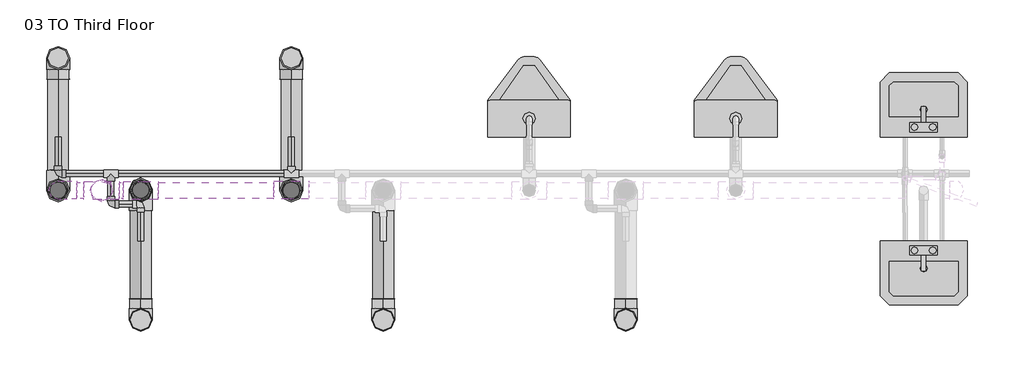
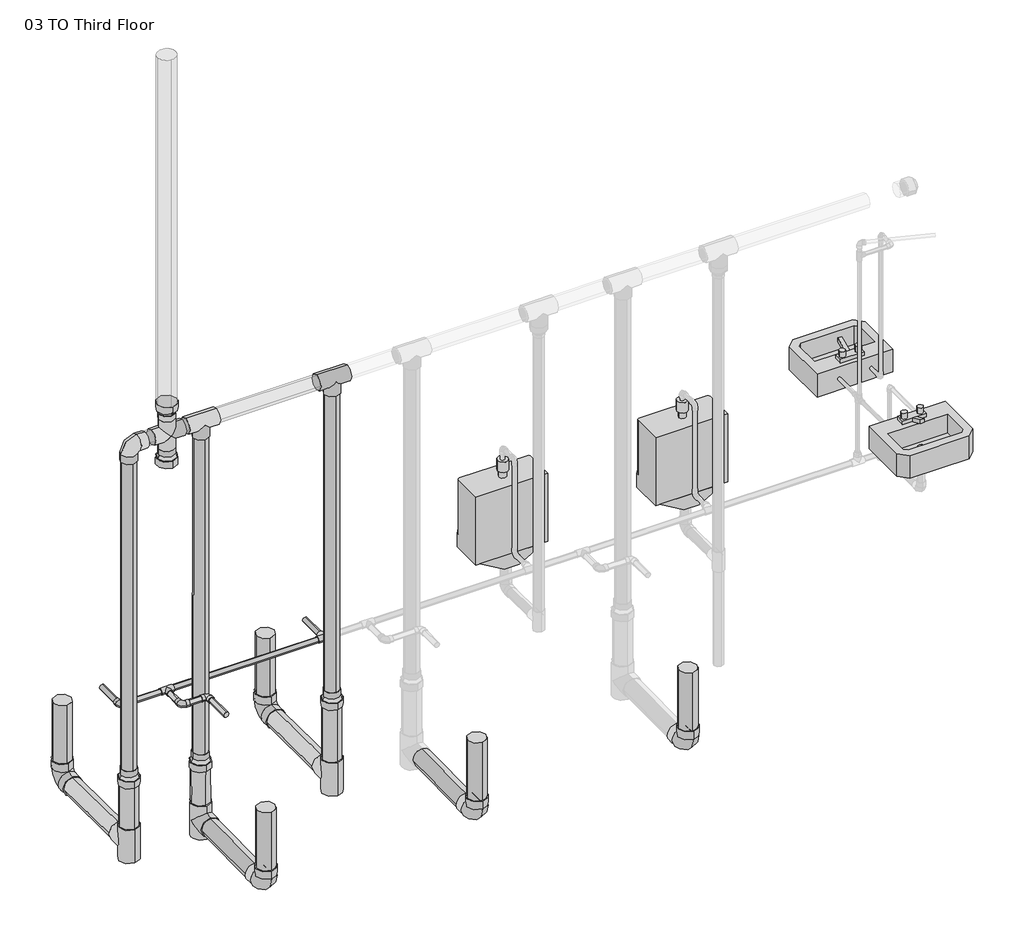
# One storey, part 1 of 3: 26 pipe segments, 22 pipe fittings, 4 flow terminals.
"""IFC4 building model written with IfcOpenShell, lengths in millimetres."""

from ifc_helpers import new_model, si_unit, point, frame, frame_2d, origin, place, context, project, spatial, circle_curve, trimmed, segment, composite_curve, outline, extrude, transform, mapped, element, save
from components import lavatory_wall_mounted_ac7d0257, urinal_wall_hung_30bb5849, cross_pvc_sch_40_standard_99b2fb3f, elbow_pvc_sch_40_standard_c47e97bb, elbow_pvc_sch_40_standard_3ccf74f3, elbow_pvc_sch_40_standard_517a5a8d, reducer_pvc_sch_40_dwv_standard_bc2808fd, tee_pvc_sch_40_standard_9cddf13a, tee_pvc_sch_40_standard_9261842d, tee_pvc_sch_40_standard_72b35c3b

model = new_model("IFC4")

# Units and contexts
model_context = context("Model", 3, world=origin())
ifc_project = project(units=[si_unit("LENGTHUNIT", "METRE", prefix="MILLI")], contexts=[model_context])

# Site, building, storey
site = spatial("IfcSite", under=ifc_project)
building = spatial("IfcBuilding", under=site)
storey = spatial("IfcBuildingStorey", under=building, Name="03 TO Third Floor", Elevation=9144.0)

# Flow terminals
placement = place(None, origin())
lavatory_wall_mounted_shape = lavatory_wall_mounted_ac7d0257(model_context)
element("IfcFlowTerminal", 1, ObjectType="Lavatory - Wall Mounted : D2010310_Lavatory_19\"x14\"Public", at=placement, inside=storey, context=model_context, shape_type="MappedRepresentation", body=[
    mapped(lavatory_wall_mounted_shape, transform((-12630.4062469, -4144.3703325, 10007.6), x_axis=(-1.0, 0.0, 0.0), y_axis=(0.0, 0.0, 1.0), z_axis=(0.0, 1.0, 0.0))),
])
element("IfcFlowTerminal", 2, ObjectType="Lavatory - Wall Mounted : D2010310_Lavatory_19\"x14\"Public", at=placement, inside=storey, context=model_context, shape_type="MappedRepresentation", body=[
    mapped(lavatory_wall_mounted_shape, transform((-12630.4062469, -4719.0453325, 10007.6), x_axis=(1.0, 0.0, 0.0), y_axis=(0.0, 0.0, 1.0), z_axis=(0.0, -1.0, 0.0))),
])
urinal_wall_hung_shape = urinal_wall_hung_30bb5849(model_context)
element("IfcFlowTerminal", 3, ObjectType="Urinal - Wall Hung : D2010210_Urinal_WallHung_3/4\" FlushValve", at=placement, inside=storey, context=model_context, shape_type="MappedRepresentation", body=[
    mapped(urinal_wall_hung_shape, transform((-14812.7542617, -4144.3703325, 9575.8), x_axis=(-1.0, 0.0, 0.0), y_axis=(0.0, 0.0, 1.0), z_axis=(0.0, 1.0, 0.0))),
])
element("IfcFlowTerminal", 4, ObjectType="Urinal - Wall Hung : D2010210_Urinal_WallHung_3/4\" FlushValve", at=placement, inside=storey, context=model_context, shape_type="MappedRepresentation", body=[
    mapped(urinal_wall_hung_shape, transform((-13669.7542617, -4144.3703325, 9575.8), x_axis=(-1.0, 0.0, 0.0), y_axis=(0.0, 0.0, 1.0), z_axis=(0.0, 1.0, 0.0))),
])

# Pipe fittings
cross_pvc_sch_40_standard_shape = cross_pvc_sch_40_standard_99b2fb3f(model_context)
element("IfcPipeFitting", 5, ObjectType="Cross - PVC - Sch 40 : Standard", at=placement, inside=storey, context=model_context, shape_type="MappedRepresentation", body=[
    mapped(cross_pvc_sch_40_standard_shape, transform((-17177.9687436, -4439.7857603, 11307.7752), x_axis=(0.0, 0.0, 1.0), y_axis=(1.0, 0.0, 0.0), z_axis=(0.0, 1.0, 0.0))),
])
elbow_pvc_sch_40_standard_shape = elbow_pvc_sch_40_standard_c47e97bb(model_context)
element("IfcPipeFitting", 6, ObjectType="Elbow - PVC - Sch 40 : Standard", at=placement, inside=storey, context=model_context, shape_type="MappedRepresentation", body=[
    mapped(elbow_pvc_sch_40_standard_shape, transform((-17418.6686686, -3706.2203325, 8636.0), x_axis=(0.0, 0.0, -1.0), y_axis=(0.0, -1.0, 0.0), z_axis=(-1.0, 0.0, 0.0))),
])
element("IfcPipeFitting", 7, ObjectType="Elbow - PVC - Sch 40 : Standard", at=placement, inside=storey, context=model_context, shape_type="MappedRepresentation", body=[
    mapped(elbow_pvc_sch_40_standard_shape, transform((-16128.0974824, -3706.2203325, 8636.0), x_axis=(0.0, 0.0, -1.0), y_axis=(0.0, -1.0, 0.0), z_axis=(-1.0, 0.0, 0.0))),
])
element("IfcPipeFitting", 8, ObjectType="Elbow - PVC - Sch 40 : Standard", at=placement, inside=storey, context=model_context, shape_type="MappedRepresentation", body=[
    mapped(elbow_pvc_sch_40_standard_shape, transform((-16961.4686686, -5157.1953325, 8636.0), x_axis=(0.0, 0.0, -1.0), y_axis=(0.0, 1.0, 0.0), z_axis=(1.0, 0.0, 0.0))),
])
element("IfcPipeFitting", 9, ObjectType="Elbow - PVC - Sch 40 : Standard", at=placement, inside=storey, context=model_context, shape_type="MappedRepresentation", body=[
    mapped(elbow_pvc_sch_40_standard_shape, transform((-15620.0974824, -5157.1953325, 8636.0), x_axis=(0.0, 0.0, -1.0), y_axis=(0.0, 1.0, 0.0), z_axis=(1.0, 0.0, 0.0))),
])
element("IfcPipeFitting", 10, ObjectType="Elbow - PVC - Sch 40 : Standard", at=placement, inside=storey, context=model_context, shape_type="MappedRepresentation", body=[
    mapped(elbow_pvc_sch_40_standard_shape, transform((-14278.7262962, -5157.1953325, 8636.0), x_axis=(0.0, 0.0, -1.0), y_axis=(0.0, 1.0, 0.0), z_axis=(1.0, 0.0, 0.0))),
])
elbow_pvc_sch_40_standard_2_shape = elbow_pvc_sch_40_standard_3ccf74f3(model_context)
element("IfcPipeFitting", 11, ObjectType="Elbow - PVC - Sch 40 : Standard", at=placement, inside=storey, context=model_context, shape_type="MappedRepresentation", body=[
    mapped(elbow_pvc_sch_40_standard_2_shape, transform((-17418.6686686, -4439.7857603, 11307.7752), x_axis=(-1.0, 0.0, 0.0), y_axis=(0.0, 0.0, -1.0), z_axis=(0.0, -1.0, 0.0))),
])
elbow_pvc_sch_40_standard_3_shape = elbow_pvc_sch_40_standard_517a5a8d(model_context)
element("IfcPipeFitting", 12, ObjectType="Elbow - PVC - Sch 40 : Standard", at=placement, inside=storey, context=model_context, shape_type="MappedRepresentation", body=[
    mapped(elbow_pvc_sch_40_standard_3_shape, transform((-17418.6686686, -4347.5703325, 9499.6), x_axis=(0.0, -1.0, 0.0), y_axis=(1.0, 0.0, 0.0), z_axis=(0.0, 0.0, 1.0))),
])
element("IfcPipeFitting", 13, ObjectType="Elbow - PVC - Sch 40 : Standard", at=placement, inside=storey, context=model_context, shape_type="MappedRepresentation", body=[
    mapped(elbow_pvc_sch_40_standard_3_shape, transform((-16961.4686686, -4515.8453325, 9499.6), x_axis=(0.0, 1.0, 0.0), y_axis=(-1.0, 0.0, 0.0), z_axis=(0.0, 0.0, 1.0))),
])
element("IfcPipeFitting", 14, ObjectType="Elbow - PVC - Sch 40 : Standard", at=placement, inside=storey, context=model_context, shape_type="MappedRepresentation", body=[
    mapped(elbow_pvc_sch_40_standard_3_shape, transform((-17126.5686686, -4515.8453325, 9499.6), x_axis=(0.0, -1.0, 0.0), y_axis=(1.0, 0.0, 0.0), z_axis=(0.0, 0.0, 1.0))),
])
reducer_pvc_sch_40_dwv_standard_shape = reducer_pvc_sch_40_dwv_standard_bc2808fd(model_context)
element("IfcPipeFitting", 15, ObjectType="Reducer - PVC - Sch 40 - DWV : Standard", at=placement, inside=storey, context=model_context, shape_type="MappedRepresentation", body=[
    mapped(reducer_pvc_sch_40_dwv_standard_shape, transform((-16128.0974824, -4439.7857603, 9216.7415065), x_axis=(0.0, 0.0, -1.0), y_axis=(1.0, 0.0, 0.0), z_axis=(0.0, -1.0, 0.0))),
])
element("IfcPipeFitting", 16, ObjectType="Reducer - PVC - Sch 40 - DWV : Standard", at=placement, inside=storey, context=model_context, shape_type="MappedRepresentation", body=[
    mapped(reducer_pvc_sch_40_dwv_standard_shape, transform((-17418.6686686, -4439.7857603, 9140.5415065), x_axis=(0.0, 0.0, -1.0), y_axis=(1.0, 0.0, 0.0), z_axis=(0.0, -1.0, 0.0))),
])
element("IfcPipeFitting", 17, ObjectType="Reducer - PVC - Sch 40 - DWV : Standard", at=placement, inside=storey, context=model_context, shape_type="MappedRepresentation", body=[
    mapped(reducer_pvc_sch_40_dwv_standard_shape, transform((-16961.4686686, -4436.2966246, 9089.5550443), x_axis=(0.0, 0.0015729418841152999, -0.9999987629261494), y_axis=(-1.0, 4.344944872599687e-12, 0.0), z_axis=(4.34495024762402e-12, 0.9999987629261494, 0.0015729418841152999))),
])
element("IfcPipeFitting", 18, ObjectType="Reducer - PVC - Sch 40 - DWV : Standard", at=placement, inside=storey, context=model_context, shape_type="MappedRepresentation", body=[
    mapped(reducer_pvc_sch_40_dwv_standard_shape, transform((-17177.9687436, -4439.7857603, 11209.9812312), x_axis=(0.0, 0.0, -1.0), y_axis=(-1.0, 0.0, 0.0), z_axis=(0.0, 1.0, 0.0))),
])
element("IfcPipeFitting", 19, ObjectType="Reducer - PVC - Sch 40 - DWV : Standard", at=placement, inside=storey, context=model_context, shape_type="MappedRepresentation", body=[
    mapped(reducer_pvc_sch_40_dwv_standard_shape, transform((-17177.9687436, -4439.7857603, 11405.5691687), x_axis=(0.0, 0.0, 1.0), y_axis=(1.0, 0.0, 0.0), z_axis=(0.0, 1.0, 0.0))),
])
tee_pvc_sch_40_standard_shape = tee_pvc_sch_40_standard_9cddf13a(model_context)
element("IfcPipeFitting", 20, ObjectType="Tee - PVC - Sch 40 : Standard", at=placement, inside=storey, context=model_context, shape_type="MappedRepresentation", body=[
    mapped(tee_pvc_sch_40_standard_shape, transform((-17418.6686686, -4439.7857603, 8643.6413065), x_axis=(0.0, 0.0, 1.0), y_axis=(0.0, -1.0, 0.0), z_axis=(1.0, 0.0, 0.0))),
])
element("IfcPipeFitting", 21, ObjectType="Tee - PVC - Sch 40 : Standard", at=placement, inside=storey, context=model_context, shape_type="MappedRepresentation", body=[
    mapped(tee_pvc_sch_40_standard_shape, transform((-16128.0974824, -4439.7857603, 8643.6413065), x_axis=(0.0, 0.0, 1.0), y_axis=(0.0, -1.0, 0.0), z_axis=(1.0, 0.0, 0.0))),
])
element("IfcPipeFitting", 22, ObjectType="Tee - PVC - Sch 40 : Standard", at=placement, inside=storey, context=model_context, shape_type="MappedRepresentation", body=[
    mapped(tee_pvc_sch_40_standard_shape, transform((-16961.4686686, -4439.7857603, 8643.4730164), x_axis=(0.0, 0.0, 1.0), y_axis=(0.0, 1.0, 0.0), z_axis=(-1.0, 0.0, 0.0))),
])
tee_pvc_sch_40_standard_2_shape = tee_pvc_sch_40_standard_9261842d(model_context)
element("IfcPipeFitting", 23, ObjectType="Tee - PVC - Sch 40 : Standard", at=placement, inside=storey, context=model_context, shape_type="MappedRepresentation", body=[
    mapped(tee_pvc_sch_40_standard_2_shape, transform((-16128.0974824, -4439.7857603, 11307.7752), x_axis=(1.0, 0.0, 0.0), y_axis=(0.0, 0.0, 1.0), z_axis=(0.0, -1.0, 0.0))),
])
element("IfcPipeFitting", 24, ObjectType="Tee - PVC - Sch 40 : Standard", at=placement, inside=storey, context=model_context, shape_type="MappedRepresentation", body=[
    mapped(tee_pvc_sch_40_standard_2_shape, transform((-16961.4686686, -4439.7857603, 11307.7752), x_axis=(-1.0, 0.0, 0.0), y_axis=(0.0, -0.0015729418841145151, 0.9999987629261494), z_axis=(0.0, 0.9999987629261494, 0.0015729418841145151))),
])
tee_pvc_sch_40_standard_3_shape = tee_pvc_sch_40_standard_72b35c3b(model_context)
element("IfcPipeFitting", 25, ObjectType="Tee - PVC - Sch 40 : Standard", at=placement, inside=storey, context=model_context, shape_type="MappedRepresentation", body=[
    mapped(tee_pvc_sch_40_standard_3_shape, transform((-17126.5686686, -4347.5703325, 9499.6), x_axis=(-1.0, 0.0, 0.0), y_axis=(0.0, 1.0, 0.0), z_axis=(0.0, 0.0, -1.0))),
])
element("IfcPipeFitting", 26, ObjectType="Tee - PVC - Sch 40 : Standard", at=placement, inside=storey, context=model_context, shape_type="MappedRepresentation", body=[
    mapped(tee_pvc_sch_40_standard_3_shape, transform((-16128.0974824, -4347.5703325, 9499.6), x_axis=(-1.0, 0.0, 0.0), y_axis=(0.0, -1.0, 0.0), z_axis=(0.0, 0.0, 1.0))),
])

# Pipe segments
element("IfcPipeSegment", 27, ObjectType="Standard", at=placement, inside=storey, context=model_context, shape_type="SweptSolid", body=[
    extrude(outline(composite_curve([segment(trimmed(circle_curve(frame_2d((-17418.6686686, -3706.2203325)), 57.15), [point((-17361.5186686, -3706.2203325))], [point((-17418.6686686, -3763.3703325))], False, "CARTESIAN"), True, "CONTINUOUS"), segment(trimmed(circle_curve(frame_2d((-17418.6686686, -3706.2203325)), 57.15), [point((-17418.6686686, -3763.3703325))], [point((-17475.8186686, -3706.2203325))], False, "CARTESIAN"), True, "CONTINUOUS"), segment(trimmed(circle_curve(frame_2d((-17418.6686686, -3706.2203325)), 57.15), [point((-17475.8186686, -3706.2203325))], [point((-17418.6686686, -3649.0703325))], False, "CARTESIAN"), True, "CONTINUOUS"), segment(trimmed(circle_curve(frame_2d((-17418.6686686, -3706.2203325)), 57.15), [point((-17418.6686686, -3649.0703325))], [point((-17361.5186686, -3706.2203325))], False, "CARTESIAN"), True, "CONTINUOUS")], self_intersect=False)), frame((0.0, 0.0, 8753.3671646), z_axis=(0.0, 0.0, 1.0), x_axis=(1.0, 0.0, 0.0)), (0.0, 0.0, 1.0), 390.6328354),
])
element("IfcPipeSegment", 28, ObjectType="Standard", at=placement, inside=storey, context=model_context, shape_type="SweptSolid", body=[
    extrude(outline(composite_curve([segment(trimmed(circle_curve(frame_2d((0.0, -57.15)), 57.15), [point((57.15, -57.15))], [point((0.0, -114.3000001))], False, "CARTESIAN"), True, "CONTINUOUS"), segment(trimmed(circle_curve(frame_2d((0.0, -57.15)), 57.15), [point((0.0, -114.3000001))], [point((-57.15, -57.15))], False, "CARTESIAN"), True, "CONTINUOUS"), segment(trimmed(circle_curve(frame_2d((0.0, -57.15)), 57.15), [point((-57.15, -57.15))], [point((0.0, 0.0))], False, "CARTESIAN"), True, "CONTINUOUS"), segment(trimmed(circle_curve(frame_2d((0.0, -57.15)), 57.15), [point((0.0, 0.0))], [point((57.15, -57.15))], False, "CARTESIAN"), True, "CONTINUOUS")], self_intersect=False)), frame((-17418.6686686, -3822.9858499, 8694.369408), z_axis=(0.0, -0.9999457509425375, 0.010416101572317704), x_axis=(1.0, 0.0, 0.0)), (0.0, 0.0, 1.0), 505.1130605),
])
element("IfcPipeSegment", 29, ObjectType="Standard", at=placement, inside=storey, context=model_context, shape_type="SweptSolid", body=[
    extrude(outline(composite_curve([segment(trimmed(circle_curve(frame_2d((-17418.6686686, -4439.7857603)), 57.15), [point((-17475.8186686, -4439.7857603))], [point((-17418.6686686, -4382.6357603))], False, "CARTESIAN"), True, "CONTINUOUS"), segment(trimmed(circle_curve(frame_2d((-17418.6686686, -4439.7857603)), 57.15), [point((-17418.6686686, -4382.6357603))], [point((-17361.5186686, -4439.7857603))], False, "CARTESIAN"), True, "CONTINUOUS"), segment(trimmed(circle_curve(frame_2d((-17418.6686686, -4439.7857603)), 57.15), [point((-17361.5186686, -4439.7857603))], [point((-17418.6686686, -4496.9357603))], False, "CARTESIAN"), True, "CONTINUOUS"), segment(trimmed(circle_curve(frame_2d((-17418.6686686, -4439.7857603)), 57.15), [point((-17418.6686686, -4496.9357603))], [point((-17475.8186686, -4439.7857603))], False, "CARTESIAN"), True, "CONTINUOUS")], self_intersect=False)), frame((0.0, 0.0, 8754.7663065), z_axis=(0.0, 0.0, 1.0), x_axis=(1.0, 0.0, 0.0)), (0.0, 0.0, 1.0), 279.4),
])
element("IfcPipeSegment", 30, ObjectType="Standard", at=placement, inside=storey, context=model_context, shape_type="SweptSolid", body=[
    extrude(outline(composite_curve([segment(trimmed(circle_curve(frame_2d((-16128.0974824, -3706.2203325)), 57.15), [point((-16070.9474824, -3706.2203325))], [point((-16128.0974824, -3763.3703325))], False, "CARTESIAN"), True, "CONTINUOUS"), segment(trimmed(circle_curve(frame_2d((-16128.0974824, -3706.2203325)), 57.15), [point((-16128.0974824, -3763.3703325))], [point((-16185.2474824, -3706.2203325))], False, "CARTESIAN"), True, "CONTINUOUS"), segment(trimmed(circle_curve(frame_2d((-16128.0974824, -3706.2203325)), 57.15), [point((-16185.2474824, -3706.2203325))], [point((-16128.0974824, -3649.0703325))], False, "CARTESIAN"), True, "CONTINUOUS"), segment(trimmed(circle_curve(frame_2d((-16128.0974824, -3706.2203325)), 57.15), [point((-16128.0974824, -3649.0703325))], [point((-16070.9474824, -3706.2203325))], False, "CARTESIAN"), True, "CONTINUOUS")], self_intersect=False)), frame((0.0, 0.0, 8753.3671646), z_axis=(0.0, 0.0, 1.0), x_axis=(1.0, 0.0, 0.0)), (0.0, 0.0, 1.0), 390.6328354),
])
element("IfcPipeSegment", 31, ObjectType="Standard", at=placement, inside=storey, context=model_context, shape_type="SweptSolid", body=[
    extrude(outline(composite_curve([segment(trimmed(circle_curve(frame_2d((0.0, -57.15)), 57.15), [point((57.15, -57.15))], [point((0.0, -114.3000001))], False, "CARTESIAN"), True, "CONTINUOUS"), segment(trimmed(circle_curve(frame_2d((0.0, -57.15)), 57.15), [point((0.0, -114.3000001))], [point((-57.15, -57.15))], False, "CARTESIAN"), True, "CONTINUOUS"), segment(trimmed(circle_curve(frame_2d((0.0, -57.15)), 57.15), [point((-57.15, -57.15))], [point((0.0, 0.0))], False, "CARTESIAN"), True, "CONTINUOUS"), segment(trimmed(circle_curve(frame_2d((0.0, -57.15)), 57.15), [point((0.0, 0.0))], [point((57.15, -57.15))], False, "CARTESIAN"), True, "CONTINUOUS")], self_intersect=False)), frame((-16128.0974824, -3822.9858499, 8694.369408), z_axis=(0.0, -0.999945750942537, 0.010416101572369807), x_axis=(1.0, 0.0, 0.0)), (0.0, 0.0, 1.0), 505.1130605),
])
element("IfcPipeSegment", 32, ObjectType="Standard", at=placement, inside=storey, context=model_context, shape_type="SweptSolid", body=[
    extrude(outline(composite_curve([segment(trimmed(circle_curve(frame_2d((-16128.0974824, -4439.7857603)), 57.15), [point((-16185.2474824, -4439.7857603))], [point((-16128.0974824, -4382.6357603))], False, "CARTESIAN"), True, "CONTINUOUS"), segment(trimmed(circle_curve(frame_2d((-16128.0974824, -4439.7857603)), 57.15), [point((-16128.0974824, -4382.6357603))], [point((-16070.9474824, -4439.7857603))], False, "CARTESIAN"), True, "CONTINUOUS"), segment(trimmed(circle_curve(frame_2d((-16128.0974824, -4439.7857603)), 57.15), [point((-16070.9474824, -4439.7857603))], [point((-16128.0974824, -4496.9357603))], False, "CARTESIAN"), True, "CONTINUOUS"), segment(trimmed(circle_curve(frame_2d((-16128.0974824, -4439.7857603)), 57.15), [point((-16128.0974824, -4496.9357603))], [point((-16185.2474824, -4439.7857603))], False, "CARTESIAN"), True, "CONTINUOUS")], self_intersect=False)), frame((0.0, 0.0, 8754.7663065), z_axis=(0.0, 0.0, 1.0), x_axis=(1.0, 0.0, 0.0)), (0.0, 0.0, 1.0), 355.6),
])
element("IfcPipeSegment", 33, ObjectType="Standard", at=placement, inside=storey, context=model_context, shape_type="SweptSolid", body=[
    extrude(outline(composite_curve([segment(trimmed(circle_curve(frame_2d((-16961.4686686, -5157.1953325)), 57.15), [point((-16904.3186686, -5157.1953325))], [point((-16961.4686686, -5214.3453325))], False, "CARTESIAN"), True, "CONTINUOUS"), segment(trimmed(circle_curve(frame_2d((-16961.4686686, -5157.1953325)), 57.15), [point((-16961.4686686, -5214.3453325))], [point((-17018.6186686, -5157.1953325))], False, "CARTESIAN"), True, "CONTINUOUS"), segment(trimmed(circle_curve(frame_2d((-16961.4686686, -5157.1953325)), 57.15), [point((-17018.6186686, -5157.1953325))], [point((-16961.4686686, -5100.0453325))], False, "CARTESIAN"), True, "CONTINUOUS"), segment(trimmed(circle_curve(frame_2d((-16961.4686686, -5157.1953325)), 57.15), [point((-16961.4686686, -5100.0453325))], [point((-16904.3186686, -5157.1953325))], False, "CARTESIAN"), True, "CONTINUOUS")], self_intersect=False)), frame((0.0, 0.0, 8753.3671646), z_axis=(0.0, 0.0, 1.0), x_axis=(1.0, 0.0, 0.0)), (0.0, 0.0, 1.0), 390.6328354),
])
element("IfcPipeSegment", 34, ObjectType="Standard", at=placement, inside=storey, context=model_context, shape_type="SweptSolid", body=[
    extrude(outline(composite_curve([segment(trimmed(circle_curve(frame_2d((0.0, -57.15)), 57.15), [point((-57.15, -57.15))], [point((0.0, 0.0))], False, "CARTESIAN"), True, "CONTINUOUS"), segment(trimmed(circle_curve(frame_2d((0.0, -57.15)), 57.15), [point((0.0, 0.0))], [point((57.15, -57.15))], False, "CARTESIAN"), True, "CONTINUOUS"), segment(trimmed(circle_curve(frame_2d((0.0, -57.15)), 57.15), [point((57.15, -57.15))], [point((0.0, -114.3000001))], False, "CARTESIAN"), True, "CONTINUOUS"), segment(trimmed(circle_curve(frame_2d((0.0, -57.15)), 57.15), [point((0.0, -114.3000001))], [point((-57.15, -57.15))], False, "CARTESIAN"), True, "CONTINUOUS")], self_intersect=False)), frame((-16961.4686686, -5039.2392547, 8580.0756086), z_axis=(0.0, 0.999945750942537, 0.010416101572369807), x_axis=(1.0, 0.0, 0.0)), (0.0, 0.0, 1.0), 488.9563285),
])
element("IfcPipeSegment", 35, ObjectType="Standard", at=placement, inside=storey, context=model_context, shape_type="SweptSolid", body=[
    extrude(outline(composite_curve([segment(trimmed(circle_curve(frame_2d((-15620.0974824, -5157.1953325)), 57.15), [point((-15562.9474824, -5157.1953325))], [point((-15620.0974824, -5214.3453325))], False, "CARTESIAN"), True, "CONTINUOUS"), segment(trimmed(circle_curve(frame_2d((-15620.0974824, -5157.1953325)), 57.15), [point((-15620.0974824, -5214.3453325))], [point((-15677.2474824, -5157.1953325))], False, "CARTESIAN"), True, "CONTINUOUS"), segment(trimmed(circle_curve(frame_2d((-15620.0974824, -5157.1953325)), 57.15), [point((-15677.2474824, -5157.1953325))], [point((-15620.0974824, -5100.0453325))], False, "CARTESIAN"), True, "CONTINUOUS"), segment(trimmed(circle_curve(frame_2d((-15620.0974824, -5157.1953325)), 57.15), [point((-15620.0974824, -5100.0453325))], [point((-15562.9474824, -5157.1953325))], False, "CARTESIAN"), True, "CONTINUOUS")], self_intersect=False)), frame((0.0, 0.0, 8753.3671646), z_axis=(0.0, 0.0, 1.0), x_axis=(1.0, 0.0, 0.0)), (0.0, 0.0, 1.0), 390.6328354),
])
element("IfcPipeSegment", 36, ObjectType="Standard", at=placement, inside=storey, context=model_context, shape_type="SweptSolid", body=[
    extrude(outline(composite_curve([segment(trimmed(circle_curve(frame_2d((0.0, -57.15)), 57.15), [point((-57.15, -57.15))], [point((0.0, 0.0))], False, "CARTESIAN"), True, "CONTINUOUS"), segment(trimmed(circle_curve(frame_2d((0.0, -57.15)), 57.15), [point((0.0, 0.0))], [point((57.15, -57.15))], False, "CARTESIAN"), True, "CONTINUOUS"), segment(trimmed(circle_curve(frame_2d((0.0, -57.15)), 57.15), [point((57.15, -57.15))], [point((0.0, -114.3000001))], False, "CARTESIAN"), True, "CONTINUOUS"), segment(trimmed(circle_curve(frame_2d((0.0, -57.15)), 57.15), [point((0.0, -114.3000001))], [point((-57.15, -57.15))], False, "CARTESIAN"), True, "CONTINUOUS")], self_intersect=False)), frame((-15620.0974824, -5039.2392547, 8580.0756086), z_axis=(0.0, 0.999945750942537, 0.010416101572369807), x_axis=(1.0, 0.0, 0.0)), (0.0, 0.0, 1.0), 488.9563285),
])
element("IfcPipeSegment", 37, ObjectType="Standard", at=placement, inside=storey, context=model_context, shape_type="SweptSolid", body=[
    extrude(outline(composite_curve([segment(trimmed(circle_curve(frame_2d((-14278.7262962, -5157.1953325)), 57.15), [point((-14221.5762962, -5157.1953325))], [point((-14278.7262962, -5214.3453325))], False, "CARTESIAN"), True, "CONTINUOUS"), segment(trimmed(circle_curve(frame_2d((-14278.7262962, -5157.1953325)), 57.15), [point((-14278.7262962, -5214.3453325))], [point((-14335.8762962, -5157.1953325))], False, "CARTESIAN"), True, "CONTINUOUS"), segment(trimmed(circle_curve(frame_2d((-14278.7262962, -5157.1953325)), 57.15), [point((-14335.8762962, -5157.1953325))], [point((-14278.7262962, -5100.0453325))], False, "CARTESIAN"), True, "CONTINUOUS"), segment(trimmed(circle_curve(frame_2d((-14278.7262962, -5157.1953325)), 57.15), [point((-14278.7262962, -5100.0453325))], [point((-14221.5762962, -5157.1953325))], False, "CARTESIAN"), True, "CONTINUOUS")], self_intersect=False)), frame((0.0, 0.0, 8753.3671646), z_axis=(0.0, 0.0, 1.0), x_axis=(1.0, 0.0, 0.0)), (0.0, 0.0, 1.0), 390.6328354),
])
element("IfcPipeSegment", 38, ObjectType="Standard", at=placement, inside=storey, context=model_context, shape_type="SweptSolid", body=[
    extrude(outline(composite_curve([segment(trimmed(circle_curve(frame_2d((0.0, 57.15)), 57.15), [point((57.15, 57.15))], [point((0.0, 0.0))], False, "CARTESIAN"), True, "CONTINUOUS"), segment(trimmed(circle_curve(frame_2d((0.0, 57.15)), 57.15), [point((0.0, 0.0))], [point((-57.15, 57.15))], False, "CARTESIAN"), True, "CONTINUOUS"), segment(trimmed(circle_curve(frame_2d((0.0, 57.15)), 57.15), [point((-57.15, 57.15))], [point((0.0, 114.3))], False, "CARTESIAN"), True, "CONTINUOUS"), segment(trimmed(circle_curve(frame_2d((0.0, 57.15)), 57.15), [point((0.0, 114.3))], [point((57.15, 57.15))], False, "CARTESIAN"), True, "CONTINUOUS")], self_intersect=False)), frame((-16961.4686686, -4496.9284499, 8755.512086), z_axis=(0.0, 0.015994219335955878, 0.9998720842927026), x_axis=(1.0, 0.0, 0.0)), (0.0, 0.0, 1.0), 228.6112025),
])
element("IfcPipeSegment", 39, ObjectType="Standard", at=placement, inside=storey, context=model_context, shape_type="SweptSolid", body=[
    extrude(outline(composite_curve([segment(trimmed(circle_curve(frame_2d((-17418.6686686, -4439.7857603)), 44.45), [point((-17374.2186686, -4439.7857603))], [point((-17418.6686686, -4484.2357603))], False, "CARTESIAN"), True, "CONTINUOUS"), segment(trimmed(circle_curve(frame_2d((-17418.6686686, -4439.7857603)), 44.45), [point((-17418.6686686, -4484.2357603))], [point((-17463.1186686, -4439.7857603))], False, "CARTESIAN"), True, "CONTINUOUS"), segment(trimmed(circle_curve(frame_2d((-17418.6686686, -4439.7857603)), 44.45), [point((-17463.1186686, -4439.7857603))], [point((-17418.6686686, -4395.3357603))], False, "CARTESIAN"), True, "CONTINUOUS"), segment(trimmed(circle_curve(frame_2d((-17418.6686686, -4439.7857603)), 44.45), [point((-17418.6686686, -4395.3357603))], [point((-17374.2186686, -4439.7857603))], False, "CARTESIAN"), True, "CONTINUOUS")], self_intersect=False)), frame((0.0, 0.0, 9140.5415065), z_axis=(0.0, 0.0, 1.0), x_axis=(1.0, 0.0, 0.0)), (0.0, 0.0, 1.0), 2065.2336435),
])
element("IfcPipeSegment", 40, ObjectType="Standard", at=placement, inside=storey, context=model_context, shape_type="SweptSolid", body=[
    extrude(outline(composite_curve([segment(trimmed(circle_curve(frame_2d((-16128.0974824, -4439.7857603)), 44.45), [point((-16083.6474824, -4439.7857603))], [point((-16128.0974824, -4484.2357603))], False, "CARTESIAN"), True, "CONTINUOUS"), segment(trimmed(circle_curve(frame_2d((-16128.0974824, -4439.7857603)), 44.45), [point((-16128.0974824, -4484.2357603))], [point((-16172.5474824, -4439.7857603))], False, "CARTESIAN"), True, "CONTINUOUS"), segment(trimmed(circle_curve(frame_2d((-16128.0974824, -4439.7857603)), 44.45), [point((-16172.5474824, -4439.7857603))], [point((-16128.0974824, -4395.3357603))], False, "CARTESIAN"), True, "CONTINUOUS"), segment(trimmed(circle_curve(frame_2d((-16128.0974824, -4439.7857603)), 44.45), [point((-16128.0974824, -4395.3357603))], [point((-16083.6474824, -4439.7857603))], False, "CARTESIAN"), True, "CONTINUOUS")], self_intersect=False)), frame((0.0, 0.0, 9216.7415065), z_axis=(0.0, 0.0, 1.0), x_axis=(1.0, 0.0, 0.0)), (0.0, 0.0, 1.0), 1994.1834935),
])
element("IfcPipeSegment", 41, ObjectType="Standard", at=placement, inside=storey, context=model_context, shape_type="SweptSolid", body=[
    extrude(outline(composite_curve([segment(trimmed(circle_curve(frame_2d((0.0, -44.45)), 44.45), [point((-44.45, -44.45))], [point((0.0, 0.0))], False, "CARTESIAN"), True, "CONTINUOUS"), segment(trimmed(circle_curve(frame_2d((0.0, -44.45)), 44.45), [point((0.0, 0.0))], [point((44.45, -44.45))], False, "CARTESIAN"), True, "CONTINUOUS"), segment(trimmed(circle_curve(frame_2d((0.0, -44.45)), 44.45), [point((44.45, -44.45))], [point((0.0, -88.9))], False, "CARTESIAN"), True, "CONTINUOUS"), segment(trimmed(circle_curve(frame_2d((0.0, -44.45)), 44.45), [point((0.0, -88.9))], [point((-44.45, -44.45))], False, "CARTESIAN"), True, "CONTINUOUS")], self_intersect=False)), frame((-16961.4686686, -4480.7465696, 9089.485127), z_axis=(0.0, -0.001572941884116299, 0.9999987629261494), x_axis=(-1.0, 0.0, 0.0)), (0.0, 0.0, 1.0), 2121.3726998),
])
element("IfcPipeSegment", 42, ObjectType="Standard", at=placement, inside=storey, context=model_context, shape_type="SweptSolid", body=[
    extrude(outline(composite_curve([segment(trimmed(circle_curve(frame_2d((-4439.7857603, 11307.7752)), 44.45), [point((-4395.3357603, 11307.7752))], [point((-4439.7857603, 11263.3252))], False, "CARTESIAN"), True, "CONTINUOUS"), segment(trimmed(circle_curve(frame_2d((-4439.7857603, 11307.7752)), 44.45), [point((-4439.7857603, 11263.3252))], [point((-4484.2357603, 11307.7752))], False, "CARTESIAN"), True, "CONTINUOUS"), segment(trimmed(circle_curve(frame_2d((-4439.7857603, 11307.7752)), 44.45), [point((-4484.2357603, 11307.7752))], [point((-4439.7857603, 11352.2252))], False, "CARTESIAN"), True, "CONTINUOUS"), segment(trimmed(circle_curve(frame_2d((-4439.7857603, 11307.7752)), 44.45), [point((-4439.7857603, 11352.2252))], [point((-4395.3357603, 11307.7752))], False, "CARTESIAN"), True, "CONTINUOUS")], self_intersect=False)), frame((-16864.6184686, 0.0, 0.0), z_axis=(1.0, 0.0, 0.0), x_axis=(0.0, 1.0, 0.0)), (0.0, 0.0, 1.0), 639.6707862),
])
element("IfcPipeSegment", 43, ObjectType="Standard", at=placement, inside=storey, context=model_context, shape_type="SweptSolid", body=[
    extrude(outline(composite_curve([segment(trimmed(circle_curve(frame_2d((9499.6, -17418.6686686)), 16.66875), [point((9499.6, -17435.3374186))], [point((9482.93125, -17418.6686686))], False, "CARTESIAN"), True, "CONTINUOUS"), segment(trimmed(circle_curve(frame_2d((9499.6, -17418.6686686)), 16.66875), [point((9482.93125, -17418.6686686))], [point((9499.6, -17401.9999186))], False, "CARTESIAN"), True, "CONTINUOUS"), segment(trimmed(circle_curve(frame_2d((9499.6, -17418.6686686)), 16.66875), [point((9499.6, -17401.9999186))], [point((9516.26875, -17418.6686686))], False, "CARTESIAN"), True, "CONTINUOUS"), segment(trimmed(circle_curve(frame_2d((9499.6, -17418.6686686)), 16.66875), [point((9516.26875, -17418.6686686))], [point((9499.6, -17435.3374186))], False, "CARTESIAN"), True, "CONTINUOUS")], self_intersect=False)), frame((0.0, -4304.3077825, 0.0), z_axis=(0.0, 1.0, 0.0), x_axis=(0.0, 0.0, 1.0)), (0.0, 0.0, 1.0), 159.93745),
])
element("IfcPipeSegment", 44, ObjectType="Standard", at=placement, inside=storey, context=model_context, shape_type="SweptSolid", body=[
    extrude(outline(composite_curve([segment(trimmed(circle_curve(frame_2d((9499.6, -16961.4686686)), 16.66875), [point((9499.6, -16944.7999186))], [point((9516.26875, -16961.4686686))], False, "CARTESIAN"), True, "CONTINUOUS"), segment(trimmed(circle_curve(frame_2d((9499.6, -16961.4686686)), 16.66875), [point((9516.26875, -16961.4686686))], [point((9499.6, -16978.1374186))], False, "CARTESIAN"), True, "CONTINUOUS"), segment(trimmed(circle_curve(frame_2d((9499.6, -16961.4686686)), 16.66875), [point((9499.6, -16978.1374186))], [point((9482.93125, -16961.4686686))], False, "CARTESIAN"), True, "CONTINUOUS"), segment(trimmed(circle_curve(frame_2d((9499.6, -16961.4686686)), 16.66875), [point((9482.93125, -16961.4686686))], [point((9499.6, -16944.7999186))], False, "CARTESIAN"), True, "CONTINUOUS")], self_intersect=False)), frame((0.0, -4719.0453325, 0.0), z_axis=(0.0, 1.0, 0.0), x_axis=(0.0, 0.0, 1.0)), (0.0, 0.0, 1.0), 159.93745),
])
element("IfcPipeSegment", 45, ObjectType="Standard", at=placement, inside=storey, context=model_context, shape_type="SweptSolid", body=[
    extrude(outline(composite_curve([segment(trimmed(circle_curve(frame_2d((-4515.8453325, 9499.6)), 16.66875), [point((-4499.1765825, 9499.6))], [point((-4515.8453325, 9482.93125))], False, "CARTESIAN"), True, "CONTINUOUS"), segment(trimmed(circle_curve(frame_2d((-4515.8453325, 9499.6)), 16.66875), [point((-4515.8453325, 9482.93125))], [point((-4532.5140825, 9499.6))], False, "CARTESIAN"), True, "CONTINUOUS"), segment(trimmed(circle_curve(frame_2d((-4515.8453325, 9499.6)), 16.66875), [point((-4532.5140825, 9499.6))], [point((-4515.8453325, 9516.26875))], False, "CARTESIAN"), True, "CONTINUOUS"), segment(trimmed(circle_curve(frame_2d((-4515.8453325, 9499.6)), 16.66875), [point((-4515.8453325, 9516.26875))], [point((-4499.1765825, 9499.6))], False, "CARTESIAN"), True, "CONTINUOUS")], self_intersect=False)), frame((-17083.3061186, 0.0, 0.0), z_axis=(1.0, 0.0, 0.0), x_axis=(0.0, 1.0, 0.0)), (0.0, 0.0, 1.0), 78.5749),
])
element("IfcPipeSegment", 46, ObjectType="Standard", at=placement, inside=storey, context=model_context, shape_type="SweptSolid", body=[
    extrude(outline(composite_curve([segment(trimmed(circle_curve(frame_2d((9499.6, -17126.5686686)), 16.66875), [point((9499.6, -17109.8999186))], [point((9516.26875, -17126.5686686))], False, "CARTESIAN"), True, "CONTINUOUS"), segment(trimmed(circle_curve(frame_2d((9499.6, -17126.5686686)), 16.66875), [point((9516.26875, -17126.5686686))], [point((9499.6, -17143.2374186))], False, "CARTESIAN"), True, "CONTINUOUS"), segment(trimmed(circle_curve(frame_2d((9499.6, -17126.5686686)), 16.66875), [point((9499.6, -17143.2374186))], [point((9482.93125, -17126.5686686))], False, "CARTESIAN"), True, "CONTINUOUS"), segment(trimmed(circle_curve(frame_2d((9499.6, -17126.5686686)), 16.66875), [point((9482.93125, -17126.5686686))], [point((9499.6, -17109.8999186))], False, "CARTESIAN"), True, "CONTINUOUS")], self_intersect=False)), frame((0.0, -4472.5827825, 0.0), z_axis=(0.0, 1.0, 0.0), x_axis=(0.0, 0.0, 1.0)), (0.0, 0.0, 1.0), 85.31225),
])
element("IfcPipeSegment", 47, ObjectType="Standard", at=placement, inside=storey, context=model_context, shape_type="SweptSolid", body=[
    extrude(outline(composite_curve([segment(trimmed(circle_curve(frame_2d((-4347.5703325, 9499.6)), 16.66875), [point((-4364.2390825, 9499.6))], [point((-4347.5703325, 9516.26875))], False, "CARTESIAN"), True, "CONTINUOUS"), segment(trimmed(circle_curve(frame_2d((-4347.5703325, 9499.6)), 16.66875), [point((-4347.5703325, 9516.26875))], [point((-4330.9015825, 9499.6))], False, "CARTESIAN"), True, "CONTINUOUS"), segment(trimmed(circle_curve(frame_2d((-4347.5703325, 9499.6)), 16.66875), [point((-4330.9015825, 9499.6))], [point((-4347.5703325, 9482.93125))], False, "CARTESIAN"), True, "CONTINUOUS"), segment(trimmed(circle_curve(frame_2d((-4347.5703325, 9499.6)), 16.66875), [point((-4347.5703325, 9482.93125))], [point((-4364.2390825, 9499.6))], False, "CARTESIAN"), True, "CONTINUOUS")], self_intersect=False)), frame((-17375.4061186, 0.0, 0.0), z_axis=(1.0, 0.0, 0.0), x_axis=(0.0, 1.0, 0.0)), (0.0, 0.0, 1.0), 209.13725),
])
element("IfcPipeSegment", 48, ObjectType="Standard", at=placement, inside=storey, context=model_context, shape_type="SweptSolid", body=[
    extrude(outline(composite_curve([segment(trimmed(circle_curve(frame_2d((9499.6, -16128.0974824)), 16.66875), [point((9499.6, -16144.7662324))], [point((9482.93125, -16128.0974824))], False, "CARTESIAN"), True, "CONTINUOUS"), segment(trimmed(circle_curve(frame_2d((9499.6, -16128.0974824)), 16.66875), [point((9482.93125, -16128.0974824))], [point((9499.6, -16111.4287324))], False, "CARTESIAN"), True, "CONTINUOUS"), segment(trimmed(circle_curve(frame_2d((9499.6, -16128.0974824)), 16.66875), [point((9499.6, -16111.4287324))], [point((9516.26875, -16128.0974824))], False, "CARTESIAN"), True, "CONTINUOUS"), segment(trimmed(circle_curve(frame_2d((9499.6, -16128.0974824)), 16.66875), [point((9516.26875, -16128.0974824))], [point((9499.6, -16144.7662324))], False, "CARTESIAN"), True, "CONTINUOUS")], self_intersect=False)), frame((0.0, -4307.8701325, 0.0), z_axis=(0.0, 1.0, 0.0), x_axis=(0.0, 0.0, 1.0)), (0.0, 0.0, 1.0), 163.4998),
])
element("IfcPipeSegment", 49, ObjectType="Standard", at=placement, inside=storey, context=model_context, shape_type="SweptSolid", body=[
    extrude(outline(composite_curve([segment(trimmed(circle_curve(frame_2d((-4347.5703325, 9499.6)), 16.66875), [point((-4364.2390825, 9499.6))], [point((-4347.5703325, 9516.26875))], False, "CARTESIAN"), True, "CONTINUOUS"), segment(trimmed(circle_curve(frame_2d((-4347.5703325, 9499.6)), 16.66875), [point((-4347.5703325, 9516.26875))], [point((-4330.9015825, 9499.6))], False, "CARTESIAN"), True, "CONTINUOUS"), segment(trimmed(circle_curve(frame_2d((-4347.5703325, 9499.6)), 16.66875), [point((-4330.9015825, 9499.6))], [point((-4347.5703325, 9482.93125))], False, "CARTESIAN"), True, "CONTINUOUS"), segment(trimmed(circle_curve(frame_2d((-4347.5703325, 9499.6)), 16.66875), [point((-4347.5703325, 9482.93125))], [point((-4364.2390825, 9499.6))], False, "CARTESIAN"), True, "CONTINUOUS")], self_intersect=False)), frame((-17086.8684686, 0.0, 0.0), z_axis=(1.0, 0.0, 0.0), x_axis=(0.0, 1.0, 0.0)), (0.0, 0.0, 1.0), 919.0707862),
])
element("IfcPipeSegment", 50, ObjectType="Standard", at=placement, inside=storey, context=model_context, shape_type="SweptSolid", body=[
    extrude(outline(composite_curve([segment(trimmed(circle_curve(frame_2d((-4439.7857603, 11307.7752)), 44.45), [point((-4395.3357603, 11307.7752))], [point((-4439.7857603, 11263.3252))], False, "CARTESIAN"), True, "CONTINUOUS"), segment(trimmed(circle_curve(frame_2d((-4439.7857603, 11307.7752)), 44.45), [point((-4439.7857603, 11263.3252))], [point((-4484.2357603, 11307.7752))], False, "CARTESIAN"), True, "CONTINUOUS"), segment(trimmed(circle_curve(frame_2d((-4439.7857603, 11307.7752)), 44.45), [point((-4484.2357603, 11307.7752))], [point((-4439.7857603, 11352.2252))], False, "CARTESIAN"), True, "CONTINUOUS"), segment(trimmed(circle_curve(frame_2d((-4439.7857603, 11307.7752)), 44.45), [point((-4439.7857603, 11352.2252))], [point((-4395.3357603, 11307.7752))], False, "CARTESIAN"), True, "CONTINUOUS")], self_intersect=False)), frame((-17316.6686186, 0.0, 0.0), z_axis=(1.0, 0.0, 0.0), x_axis=(0.0, 1.0, 0.0)), (0.0, 0.0, 1.0), 40.9059062),
])
element("IfcPipeSegment", 51, ObjectType="Standard", at=placement, inside=storey, context=model_context, shape_type="SweptSolid", body=[
    extrude(outline(composite_curve([segment(trimmed(circle_curve(frame_2d((-4439.7857603, 11307.7752)), 44.45), [point((-4395.3357603, 11307.7752))], [point((-4439.7857603, 11263.3252))], False, "CARTESIAN"), True, "CONTINUOUS"), segment(trimmed(circle_curve(frame_2d((-4439.7857603, 11307.7752)), 44.45), [point((-4439.7857603, 11263.3252))], [point((-4484.2357603, 11307.7752))], False, "CARTESIAN"), True, "CONTINUOUS"), segment(trimmed(circle_curve(frame_2d((-4439.7857603, 11307.7752)), 44.45), [point((-4484.2357603, 11307.7752))], [point((-4439.7857603, 11352.2252))], False, "CARTESIAN"), True, "CONTINUOUS"), segment(trimmed(circle_curve(frame_2d((-4439.7857603, 11307.7752)), 44.45), [point((-4439.7857603, 11352.2252))], [point((-4395.3357603, 11307.7752))], False, "CARTESIAN"), True, "CONTINUOUS")], self_intersect=False)), frame((-17080.1747748, 0.0, 0.0), z_axis=(1.0, 0.0, 0.0), x_axis=(0.0, 1.0, 0.0)), (0.0, 0.0, 1.0), 21.8559063),
])
element("IfcPipeSegment", 52, ObjectType="Standard", at=placement, inside=storey, context=model_context, shape_type="SweptSolid", body=[
    extrude(outline(composite_curve([segment(trimmed(circle_curve(frame_2d((-17177.9687436, -4439.7857603)), 57.15), [point((-17235.1187436, -4439.7857603))], [point((-17177.9687436, -4382.6357603))], False, "CARTESIAN"), True, "CONTINUOUS"), segment(trimmed(circle_curve(frame_2d((-17177.9687436, -4439.7857603)), 57.15), [point((-17177.9687436, -4382.6357603))], [point((-17120.8187436, -4439.7857603))], False, "CARTESIAN"), True, "CONTINUOUS"), segment(trimmed(circle_curve(frame_2d((-17177.9687436, -4439.7857603)), 57.15), [point((-17120.8187436, -4439.7857603))], [point((-17177.9687436, -4496.9357603))], False, "CARTESIAN"), True, "CONTINUOUS"), segment(trimmed(circle_curve(frame_2d((-17177.9687436, -4439.7857603)), 57.15), [point((-17177.9687436, -4496.9357603))], [point((-17235.1187436, -4439.7857603))], False, "CARTESIAN"), True, "CONTINUOUS")], self_intersect=False)), frame((0.0, 0.0, 11511.9443687), z_axis=(0.0, 0.0, 1.0), x_axis=(1.0, 0.0, 0.0)), (0.0, 0.0, 1.0), 2332.0248),
])

save(model, "model.ifc")
